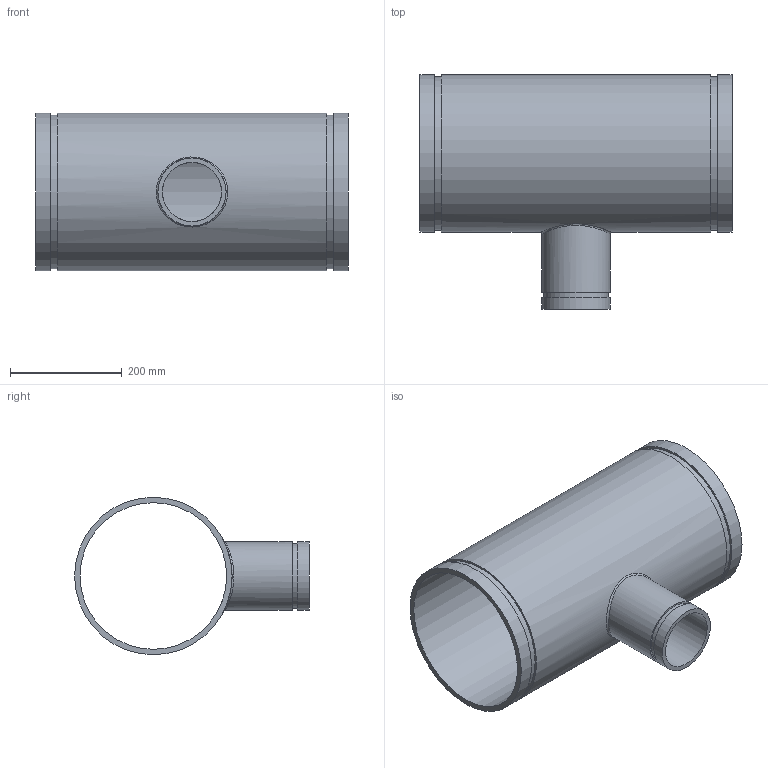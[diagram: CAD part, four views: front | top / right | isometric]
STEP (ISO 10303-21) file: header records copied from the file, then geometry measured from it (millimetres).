
FILE_DESCRIPTION(/* description */ ('VIC REDUCING TEE No 25-C','CAx-IF Rec.Pracs.---Representation and Presentation of Product Manufacturing Information (PMI)---4.0---2014-10-13'),/* implementation_level */ '2;1');
FILE_NAME(/* name */ 'C:\Users\Vjadhav\AppData\Roaming\Autodesk\ApplicationPlugins\Back Up\Victaulic_AWWA_Tee Reducing_No 25-C (DRG)\Victaulic_AWWA_Tee Reducing_No 25-C (DRG)_10.0x04.0 (250x100).stp',/* time_stamp */ '2020-08-18T18:17:50+06:00',/* author */ ('CORINNE GRAY'),/* organization */ ('Victaulic'),/* preprocessor_version */ 'ST-DEVELOPER v17.2',/* originating_system */ 'Autodesk Inventor 2019',/* authorisation */ '');
FILE_SCHEMA (('AP242_MANAGED_MODEL_BASED_3D_ENGINEERING_MIM_LF { 1 0 10303 442 1 1 4 }'));
Length unit declared in the file: inch
Products named in the file (1): 25C-10.0x04.0
Bounding box: 558.8 x 420.37 x 281.94 mm (x, y, z)
Volume: 4855927.8 mm3; surface area: 1075040.5 mm2
Topology: 1 solids, 1 shells, 20 faces, 44 edges, 33 vertices
Faces by surface type: cylinder 10, plane 9, bspline 1
Full cylindrical faces by diameter (mm): 105.664 x1, 115.9 x1, 121.92 x2, 262.636 x1, 274.65 x2, 281.94 x3
Entity records: 975 total; most frequent: CARTESIAN_POINT 351, DIRECTION 135, ORIENTED_EDGE 90, AXIS2_PLACEMENT_3D 62, EDGE_CURVE 45, VERTEX_POINT 34, EDGE_LOOP 31, CIRCLE 29
